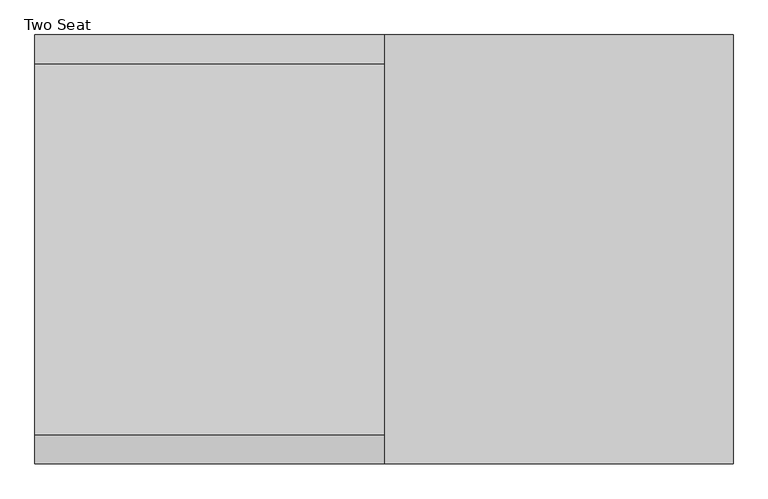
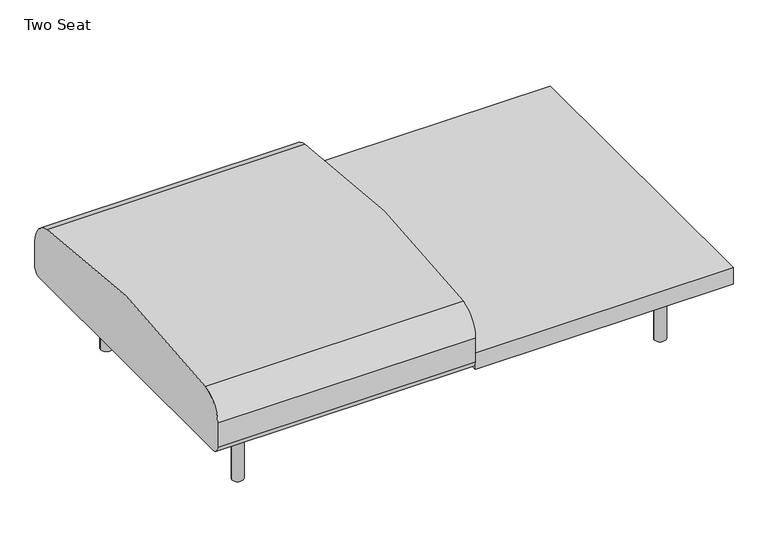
"""IFC4 building model written with IfcOpenShell, lengths in millimetres: furniture geometry, Coalesse_AM_Seating_LoungeChair_Sistema_LegBase_TwoSeat : Two Seat."""

from ifc_helpers import new_model, si_unit, point, frame, frame_2d, origin, origin_with_axes, place, context, project, spatial, polyline, circle_curve, trimmed, segment, composite_curve, outline, extrude, source, transform, mapped, element, save


def two_seat_900bc99d(model_context):
    return source(origin(), model_context, "Body", "SweptSolid", [
        extrude(outline(composite_curve([segment(trimmed(circle_curve(frame_2d((989.1765227, 335.9943389)), 6.096), [point((995.2725227, 335.9943389))], [point((983.0805227, 335.9943389))], False, "CARTESIAN"), True, "CONTINUOUS"), segment(trimmed(circle_curve(frame_2d((989.1765227, 335.9943389)), 6.096), [point((983.0805227, 335.9943389))], [point((995.2725227, 335.9943389))], False, "CARTESIAN"), True, "CONTINUOUS")], self_intersect=False)), origin_with_axes(), (0.0, 0.0, 1.0), 4.3662291),
        extrude(outline(composite_curve([segment(trimmed(circle_curve(frame_2d((989.1765227, -327.2630889)), 6.096), [point((995.2725227, -327.2630889))], [point((983.0805227, -327.2630889))], False, "CARTESIAN"), True, "CONTINUOUS"), segment(trimmed(circle_curve(frame_2d((989.1765227, -327.2630889)), 6.096), [point((983.0805227, -327.2630889))], [point((995.2725227, -327.2630889))], False, "CARTESIAN"), True, "CONTINUOUS")], self_intersect=False)), origin_with_axes(), (0.0, 0.0, 1.0), 4.3662291),
        extrude(outline(composite_curve([segment(polyline([(157.0399209, 1001.756375), (201.7356243, 1001.756375)]), True, "CONTINUOUS"), segment(trimmed(circle_curve(frame_2d((201.7356243, 998.708375)), 3.048), [point((201.7356243, 1001.756375))], [point((204.7836243, 998.708375))], False, "CARTESIAN"), True, "CONTINUOUS"), segment(polyline([(204.7836243, 998.708375), (204.7836243, 979.366199)]), True, "CONTINUOUS"), segment(trimmed(circle_curve(frame_2d((201.7356243, 979.366199)), 3.048), [point((204.7836243, 979.366199))], [point((201.7356243, 976.318199))], False, "CARTESIAN"), True, "CONTINUOUS"), segment(polyline([(201.7356243, 976.318199), (157.1249936, 976.318199)]), True, "CONTINUOUS"), segment(trimmed(circle_curve(frame_2d((157.1249936, 979.4512718)), 3.1330728), [point((157.1249936, 976.318199))], [point((153.9919209, 979.4512718))], False, "CARTESIAN"), True, "CONTINUOUS"), segment(polyline([(153.9919209, 979.4512718), (153.9919209, 998.708375)]), True, "CONTINUOUS"), segment(trimmed(circle_curve(frame_2d((157.0399209, 998.708375)), 3.048), [point((153.9919209, 998.708375))], [point((157.0399209, 1001.756375))], False, "CARTESIAN"), True, "CONTINUOUS")], self_intersect=False)), frame((0.0, 222.3519802, 0.0), z_axis=(0.0, 1.0, 0.0), x_axis=(0.0, 0.0, 1.0)), (0.0, 0.0, 1.0), 92.6273161),
        extrude(outline(composite_curve([segment(polyline([(157.0399209, 1001.756375), (201.7356243, 1001.756375)]), True, "CONTINUOUS"), segment(trimmed(circle_curve(frame_2d((201.7356243, 998.708375)), 3.048), [point((201.7356243, 1001.756375))], [point((204.7836243, 998.708375))], False, "CARTESIAN"), True, "CONTINUOUS"), segment(polyline([(204.7836243, 998.708375), (204.7836243, 979.366199)]), True, "CONTINUOUS"), segment(trimmed(circle_curve(frame_2d((201.7356243, 979.366199)), 3.048), [point((204.7836243, 979.366199))], [point((201.7356243, 976.318199))], False, "CARTESIAN"), True, "CONTINUOUS"), segment(polyline([(201.7356243, 976.318199), (157.1249936, 976.318199)]), True, "CONTINUOUS"), segment(trimmed(circle_curve(frame_2d((157.1249936, 979.4512718)), 3.1330728), [point((157.1249936, 976.318199))], [point((153.9919209, 979.4512718))], False, "CARTESIAN"), True, "CONTINUOUS"), segment(polyline([(153.9919209, 979.4512718), (153.9919209, 998.708375)]), True, "CONTINUOUS"), segment(trimmed(circle_curve(frame_2d((157.0399209, 998.708375)), 3.048), [point((153.9919209, 998.708375))], [point((157.0399209, 1001.756375))], False, "CARTESIAN"), True, "CONTINUOUS")], self_intersect=False)), frame((0.0, -314.9792963, 0.0), z_axis=(0.0, 1.0, 0.0), x_axis=(0.0, 0.0, 1.0)), (0.0, 0.0, 1.0), 92.6273161),
        extrude(outline(composite_curve([segment(trimmed(circle_curve(frame_2d((176.3356606, 966.5259944)), 3.048), [point((179.3836606, 966.5259944))], [point((176.3356606, 963.4779944))], False, "CARTESIAN"), True, "CONTINUOUS"), segment(polyline([(176.3356606, 963.4779944), (157.0399209, 963.4779944)]), True, "CONTINUOUS"), segment(trimmed(circle_curve(frame_2d((157.0399209, 966.5259944)), 3.048), [point((157.0399209, 963.4779944))], [point((153.9919209, 966.5259944))], False, "CARTESIAN"), True, "CONTINUOUS"), segment(polyline([(153.9919209, 966.5259944), (153.9919209, 1011.2135501)]), True, "CONTINUOUS"), segment(trimmed(circle_curve(frame_2d((157.056462, 1011.2135501)), 3.0645412), [point((153.9919209, 1011.2135501))], [point((157.056462, 1014.2780913))], False, "CARTESIAN"), True, "CONTINUOUS"), segment(polyline([(157.056462, 1014.2780913), (176.3356606, 1014.2780913)]), True, "CONTINUOUS"), segment(trimmed(circle_curve(frame_2d((176.3356606, 1011.2300913)), 3.048), [point((176.3356606, 1014.2780913))], [point((179.3836606, 1011.2300913))], False, "CARTESIAN"), True, "CONTINUOUS"), segment(polyline([(179.3836606, 1011.2300913), (179.3836606, 966.5259944)]), True, "CONTINUOUS")], self_intersect=False)), frame((0.0, -222.3519802, 0.0), z_axis=(0.0, 1.0, 0.0), x_axis=(0.0, 0.0, 1.0)), (0.0, 0.0, 1.0), 444.7039604),
        extrude(outline(composite_curve([segment(trimmed(circle_curve(frame_2d((989.1765227, 332.3095741)), 16.51), [point((1005.6865227, 332.3095741))], [point((972.6665227, 332.3095741))], False, "CARTESIAN"), True, "CONTINUOUS"), segment(trimmed(circle_curve(frame_2d((989.1765227, 332.3095741)), 16.51), [point((972.6665227, 332.3095741))], [point((1005.6865227, 332.3095741))], False, "CARTESIAN"), True, "CONTINUOUS")], self_intersect=False)), frame((0.0, 0.0, 4.3662291), z_axis=(0.0, 0.0, 1.0), x_axis=(1.0, 0.0, 0.0)), (0.0, 0.0, 1.0), 200.1037709),
        extrude(outline(composite_curve([segment(trimmed(circle_curve(frame_2d((988.7796477, -327.5470741)), 16.51), [point((1005.2896477, -327.5470741))], [point((972.2696477, -327.5470741))], False, "CARTESIAN"), True, "CONTINUOUS"), segment(trimmed(circle_curve(frame_2d((988.7796477, -327.5470741)), 16.51), [point((972.2696477, -327.5470741))], [point((1005.2896477, -327.5470741))], False, "CARTESIAN"), True, "CONTINUOUS")], self_intersect=False)), frame((0.0, 0.0, 4.3662291), z_axis=(0.0, 0.0, 1.0), x_axis=(1.0, 0.0, 0.0)), (0.0, 0.0, 1.0), 200.1037709),
        extrude(outline(composite_curve([segment(trimmed(circle_curve(frame_2d((-438.9184381, 226.822)), 22.352), [point((-438.9184381, 204.47))], [point((-461.2704381, 226.822))], False, "CARTESIAN"), True, "CONTINUOUS"), segment(polyline([(-461.2704381, 226.822), (-461.2704381, 301.4421993)]), True, "CONTINUOUS"), segment(trimmed(circle_curve(frame_2d((-385.0704381, 301.4421993)), 76.2), [point((-461.2704381, 301.4421993))], [point((-398.9279534, 376.3715612))], False, "CARTESIAN"), True, "CONTINUOUS"), segment(trimmed(circle_curve(frame_2d((-0.3717831, -1778.6727457)), 2191.5891461), [point((-398.9279534, 376.3715612))], [point((397.0993513, 376.5719464))], False, "CARTESIAN"), True, "CONTINUOUS"), segment(trimmed(circle_curve(frame_2d((383.2795619, 301.6356173)), 76.2), [point((397.0993513, 376.5719464))], [point((459.4795619, 301.6356173))], False, "CARTESIAN"), True, "CONTINUOUS"), segment(polyline([(459.4795619, 301.6356173), (459.4795619, 226.7871991)]), True, "CONTINUOUS"), segment(trimmed(circle_curve(frame_2d((437.1623628, 226.7871991)), 22.3171991), [point((459.4795619, 226.7871991))], [point((437.1623628, 204.47))], False, "CARTESIAN"), True, "CONTINUOUS"), segment(polyline([(437.1623628, 204.47), (-438.9184381, 204.47)]), True, "CONTINUOUS")], self_intersect=False)), frame((-374.8034773, 0.0, 0.0), z_axis=(1.0, 0.0, 0.0), x_axis=(0.0, 1.0, 0.0)), (0.0, 0.0, 1.0), 749.3),
        extrude(outline(polyline([(1123.7965227, 459.4795619), (1123.7965227, -461.2704381), (374.4965227, -461.2704381), (374.4965227, 459.4795619), (1123.7965227, 459.4795619)])), frame((0.0, 0.0, 204.47), z_axis=(0.0, 0.0, 1.0), x_axis=(1.0, 0.0, 0.0)), (0.0, 0.0, 1.0), 51.0294654),
        extrude(outline(composite_curve([segment(trimmed(circle_curve(frame_2d((-240.1834773, 335.9943389)), 6.096), [point((-246.2794773, 335.9943389))], [point((-234.0874773, 335.9943389))], False, "CARTESIAN"), True, "CONTINUOUS"), segment(trimmed(circle_curve(frame_2d((-240.1834773, 335.9943389)), 6.096), [point((-234.0874773, 335.9943389))], [point((-246.2794773, 335.9943389))], False, "CARTESIAN"), True, "CONTINUOUS")], self_intersect=False)), origin_with_axes(), (0.0, 0.0, 1.0), 4.3662291),
        extrude(outline(composite_curve([segment(trimmed(circle_curve(frame_2d((-240.1834773, -327.2630889)), 6.096), [point((-246.2794773, -327.2630889))], [point((-234.0874773, -327.2630889))], False, "CARTESIAN"), True, "CONTINUOUS"), segment(trimmed(circle_curve(frame_2d((-240.1834773, -327.2630889)), 6.096), [point((-234.0874773, -327.2630889))], [point((-246.2794773, -327.2630889))], False, "CARTESIAN"), True, "CONTINUOUS")], self_intersect=False)), origin_with_axes(), (0.0, 0.0, 1.0), 4.3662291),
        extrude(outline(composite_curve([segment(trimmed(circle_curve(frame_2d((157.0399209, -249.7153296)), 3.048), [point((157.0399209, -252.7633296))], [point((153.9919209, -249.7153296))], False, "CARTESIAN"), True, "CONTINUOUS"), segment(polyline([(153.9919209, -249.7153296), (153.9919209, -230.4582264)]), True, "CONTINUOUS"), segment(trimmed(circle_curve(frame_2d((157.1249936, -230.4582264)), 3.1330728), [point((153.9919209, -230.4582264))], [point((157.1249936, -227.3251537))], False, "CARTESIAN"), True, "CONTINUOUS"), segment(polyline([(157.1249936, -227.3251537), (201.7356243, -227.3251537)]), True, "CONTINUOUS"), segment(trimmed(circle_curve(frame_2d((201.7356243, -230.3731537)), 3.048), [point((201.7356243, -227.3251537))], [point((204.7836243, -230.3731537))], False, "CARTESIAN"), True, "CONTINUOUS"), segment(polyline([(204.7836243, -230.3731537), (204.7836243, -249.7153296)]), True, "CONTINUOUS"), segment(trimmed(circle_curve(frame_2d((201.7356243, -249.7153296)), 3.048), [point((204.7836243, -249.7153296))], [point((201.7356243, -252.7633296))], False, "CARTESIAN"), True, "CONTINUOUS"), segment(polyline([(201.7356243, -252.7633296), (157.0399209, -252.7633296)]), True, "CONTINUOUS")], self_intersect=False)), frame((0.0, 222.3519802, 0.0), z_axis=(0.0, 1.0, 0.0), x_axis=(0.0, 0.0, 1.0)), (0.0, 0.0, 1.0), 92.6273161),
        extrude(outline(composite_curve([segment(trimmed(circle_curve(frame_2d((157.0399209, -249.7153296)), 3.048), [point((157.0399209, -252.7633296))], [point((153.9919209, -249.7153296))], False, "CARTESIAN"), True, "CONTINUOUS"), segment(polyline([(153.9919209, -249.7153296), (153.9919209, -230.4582264)]), True, "CONTINUOUS"), segment(trimmed(circle_curve(frame_2d((157.1249936, -230.4582264)), 3.1330728), [point((153.9919209, -230.4582264))], [point((157.1249936, -227.3251537))], False, "CARTESIAN"), True, "CONTINUOUS"), segment(polyline([(157.1249936, -227.3251537), (201.7356243, -227.3251537)]), True, "CONTINUOUS"), segment(trimmed(circle_curve(frame_2d((201.7356243, -230.3731537)), 3.048), [point((201.7356243, -227.3251537))], [point((204.7836243, -230.3731537))], False, "CARTESIAN"), True, "CONTINUOUS"), segment(polyline([(204.7836243, -230.3731537), (204.7836243, -249.7153296)]), True, "CONTINUOUS"), segment(trimmed(circle_curve(frame_2d((201.7356243, -249.7153296)), 3.048), [point((204.7836243, -249.7153296))], [point((201.7356243, -252.7633296))], False, "CARTESIAN"), True, "CONTINUOUS"), segment(polyline([(201.7356243, -252.7633296), (157.0399209, -252.7633296)]), True, "CONTINUOUS")], self_intersect=False)), frame((0.0, -314.9792963, 0.0), z_axis=(0.0, 1.0, 0.0), x_axis=(0.0, 0.0, 1.0)), (0.0, 0.0, 1.0), 92.6273161),
        extrude(outline(composite_curve([segment(polyline([(179.3836606, -217.532949), (179.3836606, -262.2370459)]), True, "CONTINUOUS"), segment(trimmed(circle_curve(frame_2d((176.3356606, -262.2370459)), 3.048), [point((179.3836606, -262.2370459))], [point((176.3356606, -265.2850459))], False, "CARTESIAN"), True, "CONTINUOUS"), segment(polyline([(176.3356606, -265.2850459), (157.056462, -265.2850459)]), True, "CONTINUOUS"), segment(trimmed(circle_curve(frame_2d((157.056462, -262.2205047)), 3.0645412), [point((157.056462, -265.2850459))], [point((153.9919209, -262.2205047))], False, "CARTESIAN"), True, "CONTINUOUS"), segment(polyline([(153.9919209, -262.2205047), (153.9919209, -217.532949)]), True, "CONTINUOUS"), segment(trimmed(circle_curve(frame_2d((157.0399209, -217.532949)), 3.048), [point((153.9919209, -217.532949))], [point((157.0399209, -214.484949))], False, "CARTESIAN"), True, "CONTINUOUS"), segment(polyline([(157.0399209, -214.484949), (176.3356606, -214.484949)]), True, "CONTINUOUS"), segment(trimmed(circle_curve(frame_2d((176.3356606, -217.532949)), 3.048), [point((176.3356606, -214.484949))], [point((179.3836606, -217.532949))], False, "CARTESIAN"), True, "CONTINUOUS")], self_intersect=False)), frame((0.0, -222.3519802, 0.0), z_axis=(0.0, 1.0, 0.0), x_axis=(0.0, 0.0, 1.0)), (0.0, 0.0, 1.0), 444.7039604),
        extrude(outline(composite_curve([segment(trimmed(circle_curve(frame_2d((-240.1834773, 332.3095741)), 16.51), [point((-256.6934773, 332.3095741))], [point((-223.6734773, 332.3095741))], False, "CARTESIAN"), True, "CONTINUOUS"), segment(trimmed(circle_curve(frame_2d((-240.1834773, 332.3095741)), 16.51), [point((-223.6734773, 332.3095741))], [point((-256.6934773, 332.3095741))], False, "CARTESIAN"), True, "CONTINUOUS")], self_intersect=False)), frame((0.0, 0.0, 4.3662291), z_axis=(0.0, 0.0, 1.0), x_axis=(1.0, 0.0, 0.0)), (0.0, 0.0, 1.0), 200.1037709),
        extrude(outline(composite_curve([segment(trimmed(circle_curve(frame_2d((-239.7866023, -327.5470741)), 16.51), [point((-256.2966023, -327.5470741))], [point((-223.2766023, -327.5470741))], False, "CARTESIAN"), True, "CONTINUOUS"), segment(trimmed(circle_curve(frame_2d((-239.7866023, -327.5470741)), 16.51), [point((-223.2766023, -327.5470741))], [point((-256.2966023, -327.5470741))], False, "CARTESIAN"), True, "CONTINUOUS")], self_intersect=False)), frame((0.0, 0.0, 4.3662291), z_axis=(0.0, 0.0, 1.0), x_axis=(1.0, 0.0, 0.0)), (0.0, 0.0, 1.0), 200.1037709),
    ])


if __name__ == "__main__":
    model = new_model("IFC4")
    model_context = context("Model", 3, world=origin())
    ifc_project = project(units=[si_unit("LENGTHUNIT", "METRE", prefix="MILLI")], contexts=[model_context])
    site = spatial("IfcSite", under=ifc_project)
    building = spatial("IfcBuilding", under=site)
    placement = place(None, origin())
    two_seat_shape = two_seat_900bc99d(model_context)
    element("IfcFurniture", 1, ObjectType="Coalesse_AM_Seating_LoungeChair_Sistema_LegBase_TwoSeat : Two Seat", at=placement, inside=building, context=model_context, shape_type="MappedRepresentation", body=[
        mapped(two_seat_shape, transform((0.0, 0.0, 0.0), x_axis=(1.0, 0.0, 0.0), y_axis=(0.0, 1.0, 0.0), z_axis=(0.0, 0.0, 1.0))),
    ])
    save(model, "model.ifc")
